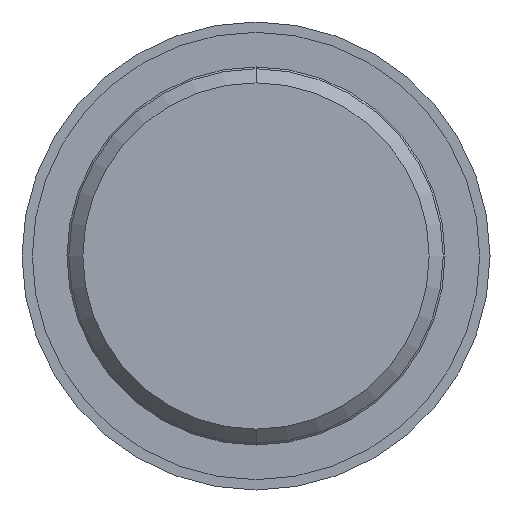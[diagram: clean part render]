
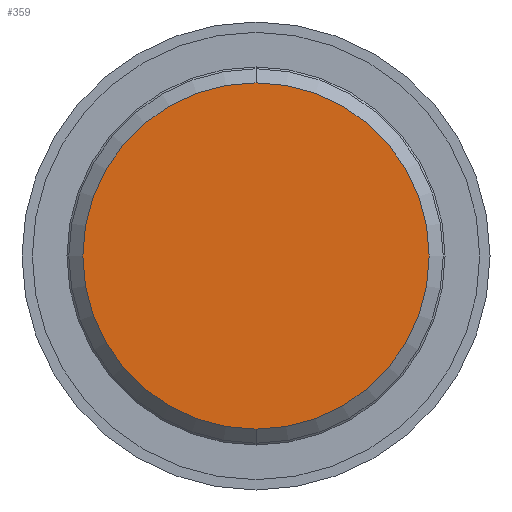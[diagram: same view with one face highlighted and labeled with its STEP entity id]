
A CAD part, front view. The second image highlights one B-rep face of the part: STEP entity #359.
In plain terms, the highlighted planar face has unit normal (0, -1, 0).
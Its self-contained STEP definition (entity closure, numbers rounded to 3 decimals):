
#69 = VERTEX_POINT ( 'NONE', #926 ) ;
#78 = DIRECTION ( 'NONE',  ( 0., 1., 0. ) ) ;
#122 = DIRECTION ( 'NONE',  ( 0., 1., 0. ) ) ;
#131 = CARTESIAN_POINT ( 'NONE',  ( 0., 0., 0. ) ) ;
#145 = AXIS2_PLACEMENT_3D ( 'NONE', #681, #78, #231 ) ;
#146 = DIRECTION ( 'NONE',  ( 0., 0., 1. ) ) ;
#200 = CARTESIAN_POINT ( 'NONE',  ( 0., 0., 0. ) ) ;
#231 = DIRECTION ( 'NONE',  ( 0., 0., 1. ) ) ;
#244 = ORIENTED_EDGE ( 'NONE', *, *, #292, .F. ) ;
#282 = EDGE_CURVE ( 'NONE', #754, #69, #951, .T. ) ;
#292 = EDGE_CURVE ( 'NONE', #69, #754, #461, .T. ) ;
#297 = AXIS2_PLACEMENT_3D ( 'NONE', #131, #122, #655 ) ;
#359 = ADVANCED_FACE ( 'NONE', ( #529 ), #755, .F. ) ;
#461 = CIRCLE ( 'NONE', #907, 9.25 ) ;
#489 = CARTESIAN_POINT ( 'NONE',  ( 0., 0., 9.25 ) ) ;
#529 = FACE_OUTER_BOUND ( 'NONE', #672, .T. ) ;
#614 = ORIENTED_EDGE ( 'NONE', *, *, #282, .F. ) ;
#655 = DIRECTION ( 'NONE',  ( 0., 0., 1. ) ) ;
#672 = EDGE_LOOP ( 'NONE', ( #614, #244 ) ) ;
#681 = CARTESIAN_POINT ( 'NONE',  ( 9.25, 0., 0. ) ) ;
#754 = VERTEX_POINT ( 'NONE', #489 ) ;
#755 = PLANE ( 'NONE',  #145 ) ;
#907 = AXIS2_PLACEMENT_3D ( 'NONE', #200, #943, #146 ) ;
#926 = CARTESIAN_POINT ( 'NONE',  ( 0., 0., -9.25 ) ) ;
#943 = DIRECTION ( 'NONE',  ( 0., 1., 0. ) ) ;
#951 = CIRCLE ( 'NONE', #297, 9.25 ) ;
